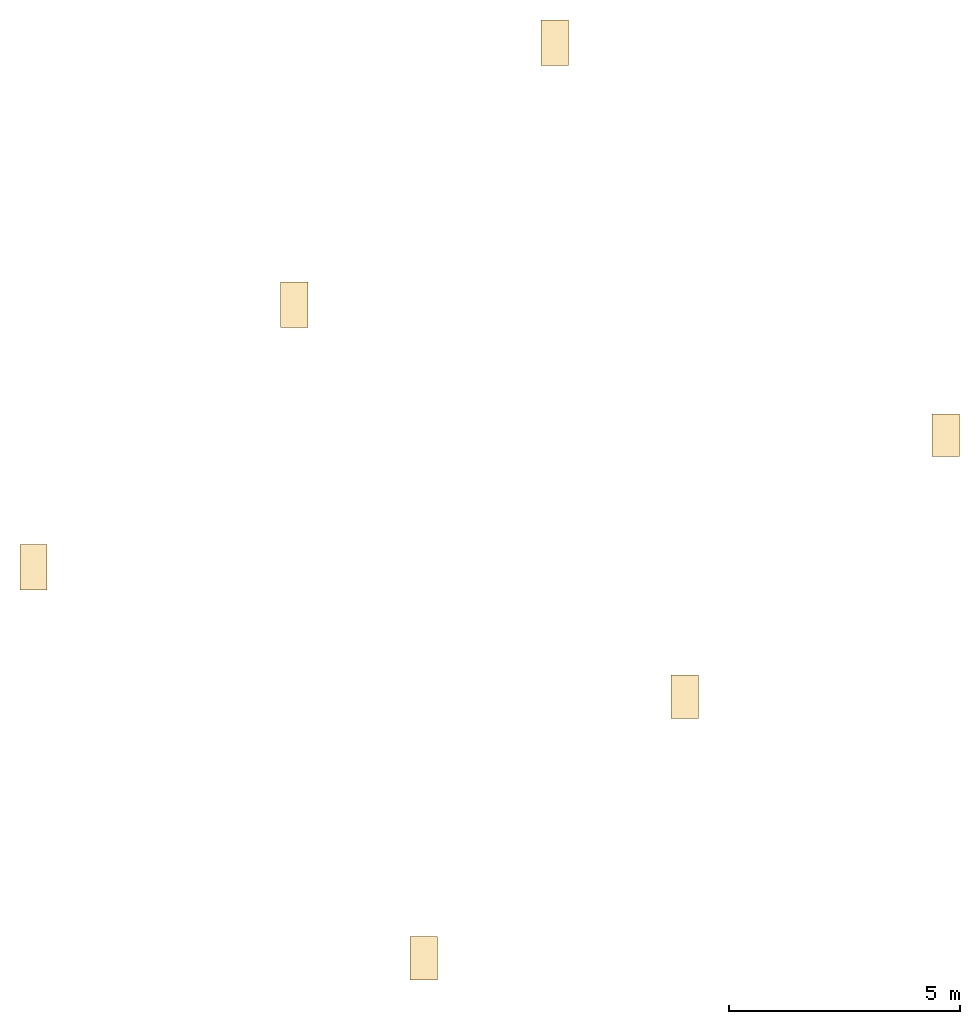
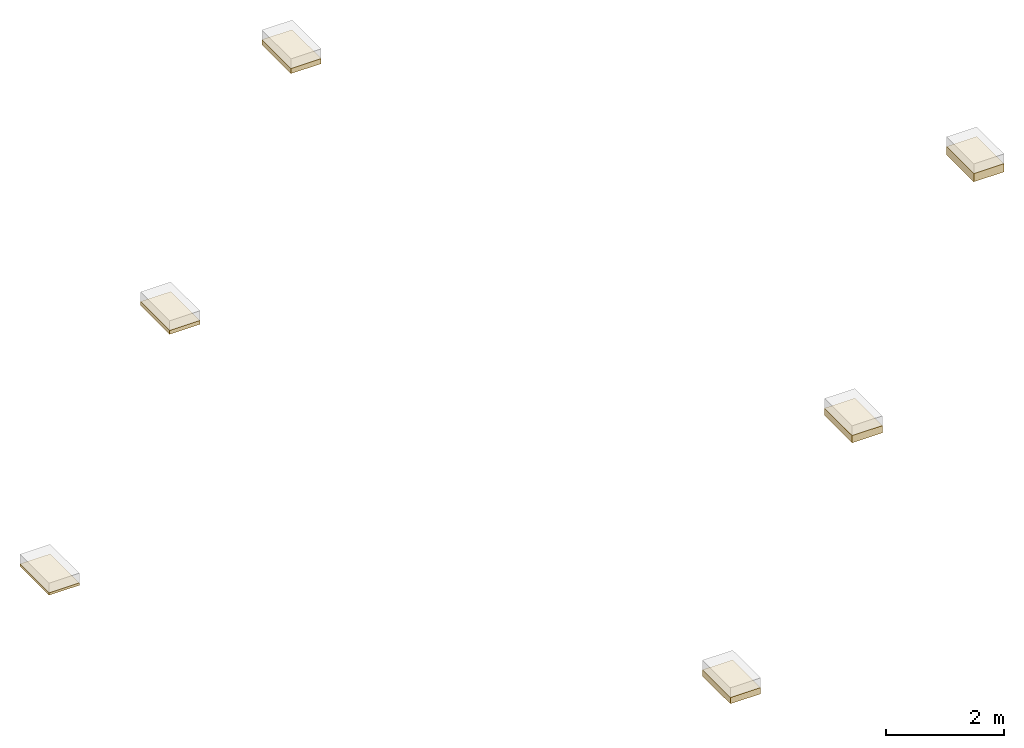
# One storey, part 2 of 2: 6 coverings.
"""IFC2X3 building model written with IfcOpenShell, lengths in millimetres."""

from ifc_helpers import new_model, entity, si_unit, converted_unit, derived_unit, direction, frame, frame_2d, origin, origin_2d_with_axis, place, context, subcontext, project, spatial, rectangle, extrude, material, layer, layer_set, layer_usage, element, save


model = new_model("IFC2X3")

# Units and contexts
model_context = context("Model", 3, precision=0.01, world=origin(), true_north=direction((6.12303176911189e-17, 1.0)))
context_of_model = context(None, 3, precision=0.01, world=origin(), true_north=direction((6.12303176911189e-17, 1.0)))
body_context = subcontext(model_context, "Body", "Model", "MODEL_VIEW")
ifc_project = project(units=[si_unit("LENGTHUNIT", "METRE", prefix="MILLI"), si_unit("AREAUNIT", "SQUARE_METRE"), si_unit("VOLUMEUNIT", "CUBIC_METRE"), converted_unit("PLANEANGLEUNIT", "DEGREE", entity("IfcRatioMeasure", 0.0174532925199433), si_unit("PLANEANGLEUNIT", "RADIAN"), dimensions=[0, 0, 0, 0, 0, 0, 0]), si_unit("MASSUNIT", "GRAM", prefix="KILO"), si_unit("TIMEUNIT", "SECOND"), si_unit("FREQUENCYUNIT", "HERTZ"), si_unit("THERMODYNAMICTEMPERATUREUNIT", "DEGREE_CELSIUS"), derived_unit("THERMALTRANSMITTANCEUNIT", [(si_unit("MASSUNIT", "GRAM", prefix="KILO"), 1), (si_unit("THERMODYNAMICTEMPERATUREUNIT", "KELVIN"), -1), (si_unit("TIMEUNIT", "SECOND"), -3)]), derived_unit("VOLUMETRICFLOWRATEUNIT", [(si_unit("LENGTHUNIT", "METRE"), 3), (si_unit("TIMEUNIT", "SECOND"), -1)]), si_unit("ELECTRICCURRENTUNIT", "AMPERE"), si_unit("ELECTRICVOLTAGEUNIT", "VOLT"), si_unit("POWERUNIT", "WATT"), si_unit("FORCEUNIT", "NEWTON", prefix="KILO"), si_unit("ILLUMINANCEUNIT", "LUX"), si_unit("LUMINOUSFLUXUNIT", "LUMEN"), si_unit("LUMINOUSINTENSITYUNIT", "CANDELA"), derived_unit("USERDEFINED", [(si_unit("MASSUNIT", "GRAM", prefix="KILO"), -1), (si_unit("LENGTHUNIT", "METRE"), -2), (si_unit("TIMEUNIT", "SECOND"), 3), (si_unit("LUMINOUSFLUXUNIT", "LUMEN"), 1)]), derived_unit("LINEARVELOCITYUNIT", [(si_unit("LENGTHUNIT", "METRE"), 1), (si_unit("TIMEUNIT", "SECOND"), -1)]), si_unit("PRESSUREUNIT", "PASCAL"), derived_unit("USERDEFINED", [(si_unit("LENGTHUNIT", "METRE"), -2), (si_unit("MASSUNIT", "GRAM", prefix="KILO"), 1), (si_unit("TIMEUNIT", "SECOND"), -2)])], contexts=[model_context, context_of_model])

# Site, building, storey
site_placement = place(None, origin())
site = spatial("IfcSite", under=ifc_project, at=site_placement, Name="Default", CompositionType="ELEMENT")
building_placement = place(site_placement, origin())
building = spatial("IfcBuilding", under=site, at=building_placement, CompositionType="ELEMENT")
storey_placement = place(building_placement, frame((0.0, 0.0, 985.0)))
storey = spatial("IfcBuildingStorey", under=building, at=storey_placement, Name="01 eerste verdieping", CompositionType="ELEMENT", Elevation=985.0)

# Coverings
ifc_material_1 = material(Name="Heraklith® | Herafoam - PIR (0,0275)")
ifc_layer_1 = layer(ifc_material_1, 40.0)
ifc_material_2 = material(Name="Heraklith® | Herafoam - Houtwollaag - 985x590mm")
ifc_layer_2 = layer(ifc_material_2, 10.0)
ifc_layer_set_1 = layer_set([ifc_layer_1, ifc_layer_2], Name="Compound Ceiling:NLRS_45_CEI_Heraklith Herafoam 50x985x590mm")
ifc_layer_usage_1 = layer_usage(ifc_layer_set_1, "AXIS3", "NEGATIVE", 0.0)
covering_1_placement = place(storey_placement, frame((0.0, 1535.0, -50.0)))
element("IfcCovering", 1, at=covering_1_placement, inside=storey, material=ifc_layer_usage_1, Name="Compound Ceiling:NLRS_45_CEI_Heraklith Herafoam 50x985x590mm", ObjectType="Compound Ceiling:NLRS_45_CEI_Heraklith Herafoam 50x985x590mm", PredefinedType="CEILING", context=body_context, shape_type="SweptSolid", body=[
    extrude(rectangle(XDim=985.0, YDim=590.0, at=origin_2d_with_axis()), frame((295.0, 492.5, 0.0), z_axis=(0.0, 0.0, 1.0), x_axis=(0.0, 1.0, 0.0)), (0.0, 0.0, 1.0), 50.0),
])
ifc_material_3 = material(Name="Heraklith® | Herafoam - PIR (0,0222)")
ifc_layer_3 = layer(ifc_material_3, 30.0)
ifc_layer_4 = layer(ifc_material_1, 40.0)
ifc_layer_5 = layer(ifc_material_2, 10.0)
ifc_layer_set_2 = layer_set([ifc_layer_3, ifc_layer_4, ifc_layer_5], Name="Compound Ceiling:NLRS_45_CEI_Heraklith Herafoam 80x985x590mm")
ifc_layer_usage_2 = layer_usage(ifc_layer_set_2, "AXIS3", "NEGATIVE", 0.0)
covering_2_placement = place(storey_placement, frame((5641.8542494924, 7221.85424949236, -80.0)))
element("IfcCovering", 2, at=covering_2_placement, inside=storey, material=ifc_layer_usage_2, Name="Compound Ceiling:NLRS_45_CEI_Heraklith Herafoam 80x985x590mm", ObjectType="Compound Ceiling:NLRS_45_CEI_Heraklith Herafoam 80x985x590mm", PredefinedType="CEILING", context=body_context, shape_type="SweptSolid", body=[
    extrude(rectangle(XDim=985.0, YDim=589.999999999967, at=frame_2d((-5.6843418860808e-13, -5.6843418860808e-13), x_axis=(1.0, 0.0))), frame((295.0, 492.500000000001, 0.0), z_axis=(0.0, 0.0, 1.0), x_axis=(0.0, 1.0, 0.0)), (0.0, 0.0, 1.0), 80.0),
])
ifc_material_4 = material(Name="Heraklith® | Herafoam - PIR (0,0215)")
ifc_layer_6 = layer(ifc_material_4, 55.0)
ifc_layer_7 = layer(ifc_material_1, 40.0)
ifc_layer_8 = layer(ifc_material_2, 10.0)
ifc_layer_set_3 = layer_set([ifc_layer_6, ifc_layer_7, ifc_layer_8], Name="Compound Ceiling:NLRS_45_CEI_Heraklith Herafoam 105x985x590mm")
ifc_layer_usage_3 = layer_usage(ifc_layer_set_3, "AXIS3", "NEGATIVE", 0.0)
covering_3_placement = place(storey_placement, frame((11286.2084989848, 12891.2084989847, -105.0)))
element("IfcCovering", 3, at=covering_3_placement, inside=storey, material=ifc_layer_usage_3, Name="Compound Ceiling:NLRS_45_CEI_Heraklith Herafoam 105x985x590mm", ObjectType="Compound Ceiling:NLRS_45_CEI_Heraklith Herafoam 105x985x590mm", PredefinedType="CEILING", context=body_context, shape_type="SweptSolid", body=[
    extrude(rectangle(XDim=985.000000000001, YDim=589.999999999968, at=frame_2d((0.0, 1.10844666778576e-12), x_axis=(1.0, 0.0))), frame((295.0, 492.500000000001, 0.0), z_axis=(0.0, 0.0, 1.0), x_axis=(0.0, 1.0, 0.0)), (0.0, 0.0, 1.0), 105.0),
])
ifc_layer_9 = layer(ifc_material_4, 80.0)
ifc_layer_10 = layer(ifc_material_1, 40.0)
ifc_layer_11 = layer(ifc_material_2, 10.0)
ifc_layer_set_4 = layer_set([ifc_layer_9, ifc_layer_10, ifc_layer_11], Name="Compound Ceiling:NLRS_45_CEI_Heraklith Herafoam 130x985x590mm")
ifc_layer_usage_4 = layer_usage(ifc_layer_set_4, "AXIS3", "NEGATIVE", 0.0)
covering_4_placement = place(storey_placement, frame((8445.28137423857, -6910.28137423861, -130.0)))
element("IfcCovering", 4, at=covering_4_placement, inside=storey, material=ifc_layer_usage_4, Name="Compound Ceiling:NLRS_45_CEI_Heraklith Herafoam 130x985x590mm", ObjectType="Compound Ceiling:NLRS_45_CEI_Heraklith Herafoam 130x985x590mm", PredefinedType="CEILING", context=body_context, shape_type="SweptSolid", body=[
    extrude(rectangle(XDim=944.999999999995, YDim=589.999999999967, at=frame_2d((0.0, 5.6843418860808e-13), x_axis=(1.0, 0.0))), frame((295.0, 472.499999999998, 0.0), z_axis=(0.0, 0.0, 1.0), x_axis=(0.0, 1.0, 0.0)), (0.0, 0.0, 1.0), 130.0),
])
ifc_layer_12 = layer(ifc_material_4, 100.0)
ifc_layer_13 = layer(ifc_material_1, 40.0)
ifc_layer_14 = layer(ifc_material_2, 10.0)
ifc_layer_set_5 = layer_set([ifc_layer_12, ifc_layer_13, ifc_layer_14], Name="Compound Ceiling:NLRS_45_CEI_Heraklith Herafoam 150x985x590mm")
ifc_layer_usage_5 = layer_usage(ifc_layer_set_5, "AXIS3", "NEGATIVE", 0.0)
covering_5_placement = place(storey_placement, frame((14097.1356237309, -1243.42712474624, -150.0)))
element("IfcCovering", 5, at=covering_5_placement, inside=storey, material=ifc_layer_usage_5, Name="Compound Ceiling:NLRS_45_CEI_Heraklith Herafoam 150x985x590mm", ObjectType="Compound Ceiling:NLRS_45_CEI_Heraklith Herafoam 150x985x590mm", PredefinedType="CEILING", context=body_context, shape_type="SweptSolid", body=[
    extrude(rectangle(XDim=935.000000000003, YDim=589.999999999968, at=frame_2d((0.0, -1.10844666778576e-12), x_axis=(1.0, 0.0))), frame((295.0, 467.500000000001, 0.0), z_axis=(0.0, 0.0, 1.0), x_axis=(0.0, 1.0, 0.0)), (0.0, 0.0, 1.0), 150.0),
])
ifc_layer_15 = layer(ifc_material_4, 120.0)
ifc_layer_16 = layer(ifc_material_1, 40.0)
ifc_layer_17 = layer(ifc_material_2, 10.0)
ifc_layer_set_6 = layer_set([ifc_layer_15, ifc_layer_16, ifc_layer_17], Name="Compound Ceiling:NLRS_45_CEI_Heraklith Herafoam 170x985x590mm")
ifc_layer_usage_6 = layer_usage(ifc_layer_set_6, "AXIS3", "NEGATIVE", 0.0)
covering_6_placement = place(storey_placement, frame((19748.9898732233, 4423.42712474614, -170.0)))
element("IfcCovering", 6, at=covering_6_placement, inside=storey, material=ifc_layer_usage_6, Name="Compound Ceiling:NLRS_45_CEI_Heraklith Herafoam 170x985x590mm", ObjectType="Compound Ceiling:NLRS_45_CEI_Heraklith Herafoam 170x985x590mm", PredefinedType="CEILING", context=body_context, shape_type="SweptSolid", body=[
    extrude(rectangle(XDim=925.000000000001, YDim=589.99999999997, at=frame_2d((-5.40012479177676e-13, 0.0), x_axis=(1.0, 0.0))), frame((295.0, 462.5, 0.0), z_axis=(0.0, 0.0, 1.0), x_axis=(0.0, 1.0, 0.0)), (0.0, 0.0, 1.0), 170.0),
])

save(model, "model.ifc")
